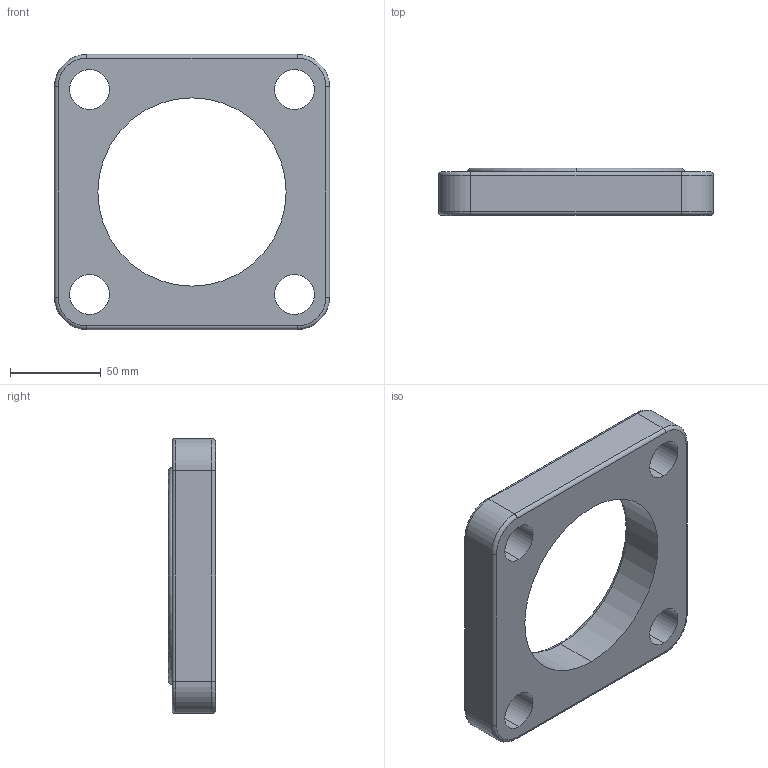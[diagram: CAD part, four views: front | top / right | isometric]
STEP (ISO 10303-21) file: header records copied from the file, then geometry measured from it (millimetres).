
FILE_DESCRIPTION (( 'STEP AP203' ), '1' );
FILE_NAME ('3103-1019B.STEP', '2014-02-18T06:22:20', ( 'jameswang' ), ( '' ), 'SwSTEP 2.0', 'SolidWorks 2013', '' );
FILE_SCHEMA (( 'CONFIG_CONTROL_DESIGN' ));
Length unit declared in the file: millimetre
Products named in the file (1): 3103-1019B
Bounding box: 152 x 26 x 152 mm (x, y, z)
Volume: 311491.2 mm3; surface area: 53756.8 mm2
Topology: 1 solids, 1 shells, 41 faces, 96 edges, 58 vertices
Faces by surface type: cylinder 22, torus 12, plane 7
Entity records: 1285 total; most frequent: DIRECTION 242, CARTESIAN_POINT 196, ORIENTED_EDGE 192, AXIS2_PLACEMENT_3D 104, EDGE_CURVE 96, CIRCLE 62, VERTEX_POINT 58, EDGE_LOOP 52
